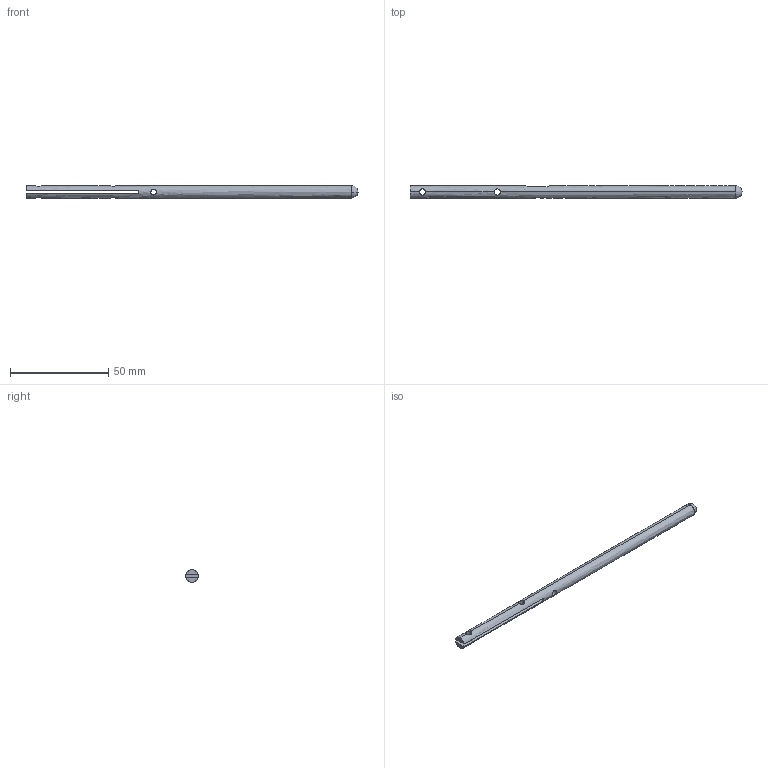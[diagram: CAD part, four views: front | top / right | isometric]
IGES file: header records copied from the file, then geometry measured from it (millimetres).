
Start section: SolidWorks IGES file using analytic representation for surfaces
Global section: file name: C:\Users\Bud\Documents\GitHub\telemetry\Hardware\Masthead hardware\IGES\wind dir indicator shaft.IGS; native system: SolidWorks 2011; preprocessor: SolidWorks 2011; author: Bud; date: 131225.211943; units: inch
Bounding box: 169.23 x 6.35 x 6.35 mm (x, y, z)
Surface area: 4043.4 mm2 (no closed solid volume)
Topology: 0 solids, 0 shells, 24 faces, 726 edges, 724 vertices
Faces by surface type: revolution 16, bspline 8
